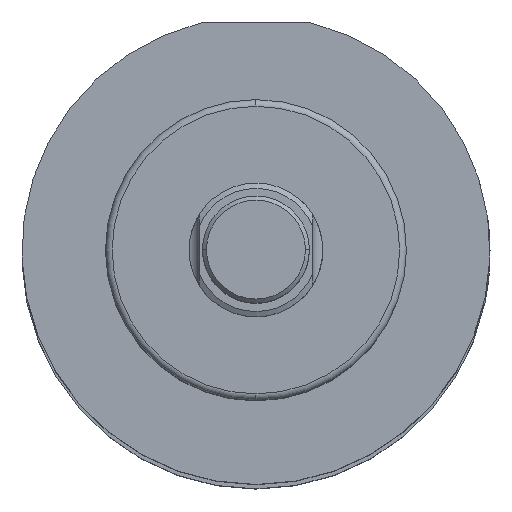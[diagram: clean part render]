
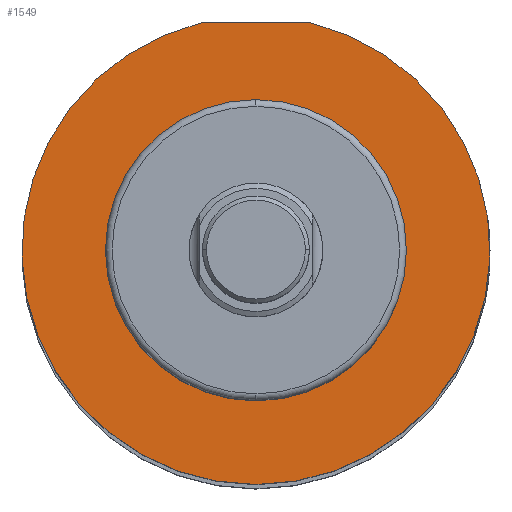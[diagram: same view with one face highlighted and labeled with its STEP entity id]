
A CAD part, top view. The second image highlights one B-rep face of the part: STEP entity #1549.
In plain terms, the highlighted planar face has unit normal (0, 0, 1) as drawn and (0, 0, -1) by its records, which use the part's own axes.
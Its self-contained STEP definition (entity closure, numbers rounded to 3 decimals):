
#44 = VERTEX_POINT ( 'NONE', #367 ) ;
#97 = DIRECTION ( 'NONE',  ( 0., -1., 0. ) ) ;
#123 = DIRECTION ( 'NONE',  ( 0., 1., 0. ) ) ;
#173 = AXIS2_PLACEMENT_3D ( 'NONE', #1124, #2958, #1387 ) ;
#177 = VECTOR ( 'NONE', #460, 1000. ) ;
#201 = CARTESIAN_POINT ( 'NONE',  ( -10., -34., -24.883 ) ) ;
#206 = EDGE_CURVE ( 'NONE', #2020, #2336, #1777, .T. ) ;
#288 = CARTESIAN_POINT ( 'NONE',  ( 0., 0.032, -24.883 ) ) ;
#367 = CARTESIAN_POINT ( 'NONE',  ( 0., -22.468, -24.883 ) ) ;
#444 = CARTESIAN_POINT ( 'NONE',  ( 0., 35.032, -24.883 ) ) ;
#460 = DIRECTION ( 'NONE',  ( -1., 0., 0. ) ) ;
#517 = ORIENTED_EDGE ( 'NONE', *, *, #1630, .T. ) ;
#556 = DIRECTION ( 'NONE',  ( 0., 1., 0. ) ) ;
#595 = EDGE_CURVE ( 'NONE', #2336, #2979, #1034, .T. ) ;
#769 = FACE_BOUND ( 'NONE', #2785, .T. ) ;
#830 = EDGE_CURVE ( 'NONE', #44, #1790, #983, .T. ) ;
#848 = FACE_OUTER_BOUND ( 'NONE', #3344, .T. ) ;
#875 = CARTESIAN_POINT ( 'NONE',  ( 0., 0., -24.883 ) ) ;
#983 = CIRCLE ( 'NONE', #1070, 22.5 ) ;
#985 = CARTESIAN_POINT ( 'NONE',  ( 0., 0.032, -24.883 ) ) ;
#1034 = LINE ( 'NONE', #201, #177 ) ;
#1070 = AXIS2_PLACEMENT_3D ( 'NONE', #985, #2819, #1250 ) ;
#1124 = CARTESIAN_POINT ( 'NONE',  ( 0., 0.032, -24.883 ) ) ;
#1250 = DIRECTION ( 'NONE',  ( 0., 1., 0. ) ) ;
#1387 = DIRECTION ( 'NONE',  ( 0., 1., 0. ) ) ;
#1451 = CARTESIAN_POINT ( 'NONE',  ( 0., 22.532, -24.883 ) ) ;
#1549 = ADVANCED_FACE ( 'NONE', ( #769, #848 ), #2451, .F. ) ;
#1561 = AXIS2_PLACEMENT_3D ( 'NONE', #3263, #1697, #123 ) ;
#1630 = EDGE_CURVE ( 'NONE', #2979, #2020, #2070, .T. ) ;
#1642 = AXIS2_PLACEMENT_3D ( 'NONE', #288, #2119, #556 ) ;
#1674 = DIRECTION ( 'NONE',  ( 0., 0., 1. ) ) ;
#1697 = DIRECTION ( 'NONE',  ( 0., 0., -1. ) ) ;
#1777 = CIRCLE ( 'NONE', #1561, 35. ) ;
#1790 = VERTEX_POINT ( 'NONE', #1451 ) ;
#1917 = ORIENTED_EDGE ( 'NONE', *, *, #595, .T. ) ;
#2020 = VERTEX_POINT ( 'NONE', #444 ) ;
#2070 = CIRCLE ( 'NONE', #173, 35. ) ;
#2119 = DIRECTION ( 'NONE',  ( 0., 0., -1. ) ) ;
#2218 = ORIENTED_EDGE ( 'NONE', *, *, #3307, .F. ) ;
#2327 = CARTESIAN_POINT ( 'NONE',  ( -8.173, -34., -24.883 ) ) ;
#2336 = VERTEX_POINT ( 'NONE', #2641 ) ;
#2451 = PLANE ( 'NONE',  #2867 ) ;
#2569 = ORIENTED_EDGE ( 'NONE', *, *, #830, .F. ) ;
#2641 = CARTESIAN_POINT ( 'NONE',  ( 8.173, -34., -24.883 ) ) ;
#2785 = EDGE_LOOP ( 'NONE', ( #2218, #2569 ) ) ;
#2819 = DIRECTION ( 'NONE',  ( 0., 0., -1. ) ) ;
#2866 = ORIENTED_EDGE ( 'NONE', *, *, #206, .T. ) ;
#2867 = AXIS2_PLACEMENT_3D ( 'NONE', #875, #1674, #97 ) ;
#2882 = CIRCLE ( 'NONE', #1642, 22.5 ) ;
#2958 = DIRECTION ( 'NONE',  ( 0., 0., -1. ) ) ;
#2979 = VERTEX_POINT ( 'NONE', #2327 ) ;
#3263 = CARTESIAN_POINT ( 'NONE',  ( 0., 0.032, -24.883 ) ) ;
#3307 = EDGE_CURVE ( 'NONE', #1790, #44, #2882, .T. ) ;
#3344 = EDGE_LOOP ( 'NONE', ( #517, #2866, #1917 ) ) ;
